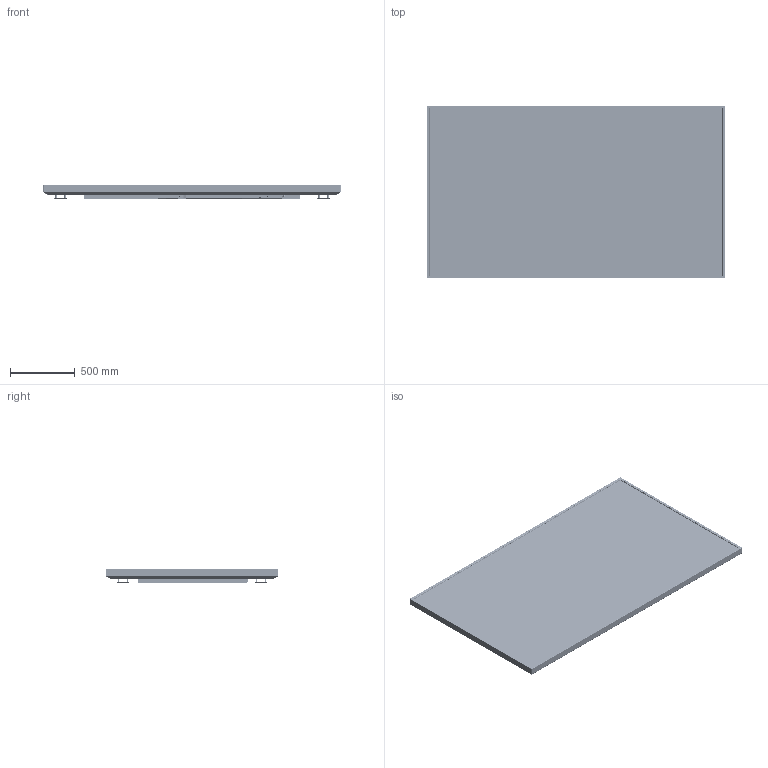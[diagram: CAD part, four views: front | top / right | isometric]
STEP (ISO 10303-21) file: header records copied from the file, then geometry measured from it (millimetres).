
FILE_DESCRIPTION (( 'STEP AP203' ), '1' );
FILE_NAME ('URX100-ERO-T Panel 3D.STEP', '2022-08-16T22:37:28', ( '' ), ( '' ), 'SwSTEP 2.0', 'SolidWorks 2021', '' );
FILE_SCHEMA (( 'CONFIG_CONTROL_DESIGN' ));
Length unit declared in the file: millimetre
Products named in the file (63): 105-0018-50; 572-5376; PEM SO-M3-3 ZI--N_PEM SO-M3-3 ZI--N; 572-5639; 526-0603_100 long; PEM TPS-4mm-16; 105-0022-00; PEM SO-3.5M3-8 ZI--N_PEM SO-3.5M3-8 ZI--N; 572-5339_Masked; 572-5379; 82-35-302-15 spring; 572-5367; PEM BSO-3.5M3-10 ZI--N_PEM BSO-3.5M3-10 ZI--N; PEM TPS-4mm-8_PreviewCfg; 572-5345; 572-5635; SPACER, 0.5in OD x 0.25in ID x 1.1875in LG_92414A437; PLP2-125 (Lens); 572-5377; 572-4464; B18.22M - Plain washer, 3 mm, wide_B18.22M - Plain washer, 3 mm, wide; PEM S-M4-1 ZI--N; RIVET - 093 C''SINK; 572-5636; 572-5304_Masked; B18.6.7M - M4 x 0.7 x 6 Type I Cross Recessed PHMS --6N BLK_B18.6.7M - M4 x 0.7 x 6 Type I Cross Recessed PHMS BLK --6N; B18.6.7M - M4 x 0.7 x 10 Type I Cross Recessed FHMS --10N - BLK_B18.6.7M - M4 x 0.7 x 10 Type I Cross Recessed FHMS --10N; B18.6.7M - M3 x 0.5 x 6 Type I Cross Recessed FHMS --6N BLK_PreviewCfg; 927-0067; 82-19-180-16; 572-5367_Masked; 572-5637; B18.6.7M - M3 x 0.5 x 6 Type I Cross Recessed FHMS --6N_B18.6.7M - M3 x 0.5 x 6 Type I Cross Recessed FHMS --6N; BYEASY_UH74; PEM FH-M6-15 ZI--N_PEM FH-M6-15 ZI--N; 591-0366_bonded; 572-5638; PEM S-M3-0 ZI--N_PEM S-M3-0 ZI--N; B18.3.5M - 6 x 1.0 x 40 Socket FCHS  -- 40N_B18.3.5M - 6 x 1.0 x 40 Socket FCHS  -- 40N; 105-0020-00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
Assembly tree (233 placements, depth 6):
  URX100-ERO-T Panel 3D
    Hayden common tray_Hayden 100
      437-2443
        572-5304
          572-5304_Masked
          PEM BSO-3.5M3-14 ZI--N_PEM BSO-3.5M3-14 ZI--N  x12
          PEM SO-3.5M3-8 ZI--N_PEM SO-3.5M3-8 ZI--N  x9
          PEM BSO-3.5M3-10 ZI--N_PEM BSO-3.5M3-10 ZI--N  x6
          PEM PF11-M4-1-ZI--N  x4
          105-0018-50
            82-35-302-15 spring
            82-35-302-15 base
          RIVET - 093 C''SINK  x2
          PEM FH-M6-15 ZI--N_PEM FH-M6-15 ZI--N
          PEM S-M4-1 ZI--N  x2
          PEM S-M3-1 ZI--N_PEM S-M3-1 ZI--N  x2
          PEM TPS-4mm-16  x2
        572-5339_Masked
        B18.6.7M - M4 x 0.7 x 6 Type I Cross Recessed PHMS --6N BLK_B18.6.7M - M4 x 0.7 x 6 Type I Cross Recessed PHMS BLK --6N  x2
        572-5345  x6
          572-5345
          PEM SO-M3-3 ZI--N_PEM SO-M3-3 ZI--N
        RIVET - 125 BUTTON HEAD  x12
      10SS6-B2AHR-QPB
      572-5367
        572-5367_Masked
        PF11MF-M4-1  x2
        PEM SO-3.5M3-4 ZI--N_PEM SO-3.5M3-4 ZI--N  x8
        PEM TPS-4mm-8_PreviewCfg  x2
        105-0020-00
        105-0022-00
        82-19-180-16
        B18.6.7M - M3 x 0.5 x 6 Type I Cross Recessed FHMS --6N_B18.6.7M - M3 x 0.5 x 6 Type I Cross Recessed FHMS --6N  x8
        B18.22M - Plain washer, 3 mm, wide_B18.22M - Plain washer, 3 mm, wide  x8
      572-5519
      BYEASY_UH74
    572-4464
      572-4464
      PLP2-125 (Lens)
    540-0192
    B18.6.7M - M3 x 0.5 x 6 Type I Cross Recessed FHMS --6N BLK_PreviewCfg  x4
    B18.6.7M - M4 x 0.7 x 10 Type I Cross Recessed FHMS --10N - BLK_B18.6.7M - M4 x 0.7 x 10 Type I Cross Recessed FHMS --10N  x44
    572-5378  x4
      572-5378
      SPACER, 0.5in OD x 0.25in ID x 1.1875in LG_92414A437
    B18.3.5M - 6 x 1.0 x 40 Socket FCHS  -- 40N_B18.3.5M - 6 x 1.0 x 40 Socket FCHS  -- 40N  x16
    572-5376
    572-5377
    B18.6.7M - M3 x 0.5 x 8 Type I Cross Recessed PHMS --8N BLK_B18.6.7M - M3 x 0.5 x 8 Type I Cross Recessed PHMS --8N  x22
    572-5379
      572-5379
      PEM S-M3-0 ZI--N_PEM S-M3-0 ZI--N  x3
    572-5380
    927-0067
      591-0366_bonded
    572-5635  x2
    572-5636  x2
    526-0603_100 long  x4
    572-5637  x2
    572-5638  x2
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Bounding box: 2297.4 x 1330.7 x 104.18 mm (x, y, z)
Volume: 17100854.8 mm3; surface area: 17090533.3 mm2
Topology: 255 solids, 383 shells, 21868 faces, 60995 edges, 40098 vertices
Faces by surface type: plane 11326, cylinder 7828, bspline 1469, cone 907, torus 216, sphere 122
Entity records: 593857 total; most frequent: CARTESIAN_POINT 158048, ORIENTED_EDGE 88167, DIRECTION 84273, EDGE_CURVE 46473, VERTEX_POINT 31293, VECTOR 30025, LINE 30025, AXIS2_PLACEMENT_3D 27124
